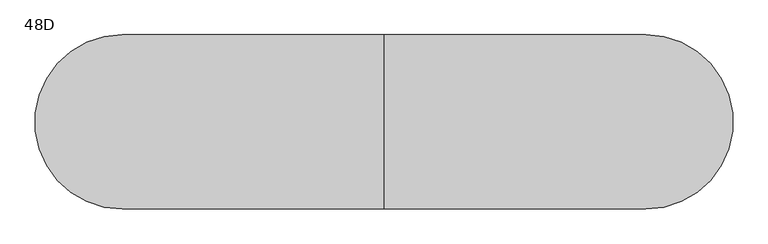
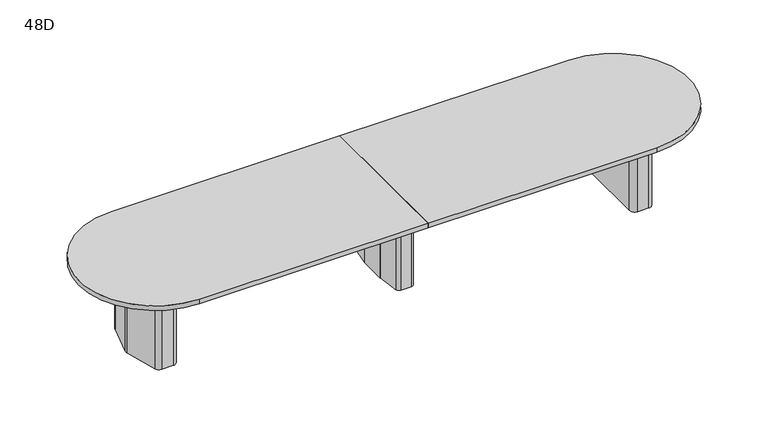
"""IFC4 building model written with IfcOpenShell, lengths in millimetres: furniture geometry, Coalesse_AM_Table_Conference_ETable2_Racetrack_16ft_ThreeBase : 48D."""

from ifc_helpers import new_model, si_unit, point, frame, frame_2d, origin, place, context, project, spatial, polyline, circle_curve, trimmed, segment, composite_curve, outline, extrude, source, transform, mapped, element, save
from ifc_brep_helpers import plane_surface, cylinder_surface, revolved_surface, advanced_brep


def furniture_48d_468f8837(model_context):
    return source(origin(), model_context, "Body", "SolidModel", [
        advanced_brep(
        [(35.71875, 206.375, 3.175), (10.31875, 231.775, 3.175), (-10.31875, 231.775, 3.175), (-35.71875, 206.375, 3.175), (-35.71875, -206.375, 3.175), (-10.31875, -231.775, 3.175), (10.31875, -231.775, 3.175), (35.71875, -206.375, 3.175), (-61.11875, 206.375, 0.0), (-10.31875, 257.175, 0.0), (10.31875, 257.175, 0.0), (61.11875, 206.375, 0.0), (61.11875, -206.375, 0.0), (10.31875, -257.175, 0.0), (-10.31875, -257.175, 0.0), (-61.11875, -206.375, 0.0), (-61.11875, -206.375, 3.175), (-61.11875, 206.375, 3.175), (-10.31875, -257.175, 3.175), (10.31875, -257.175, 3.175), (61.11875, -206.375, 3.175), (61.11875, 206.375, 3.175), (10.31875, 257.175, 3.175), (-10.31875, 257.175, 3.175), (-92.6215974, 106.2976848, 698.5), (-92.86875, 102.7629613, 698.5), (-92.86875, -102.7629613, 698.5), (-92.6215974, -106.2976848, 698.5), (-67.7988375, -282.9347235, 698.5), (-42.6459902, -304.8, 698.5), (42.6459902, -304.8, 698.5), (67.7988375, -282.9347235, 698.5), (92.6215974, -106.2976848, 698.5), (92.86875, -102.7629613, 698.5), (92.86875, 102.7629613, 698.5), (92.6215974, 106.2976848, 698.5), (67.7988375, 282.9347235, 698.5), (42.6459902, 304.8, 698.5), (-42.6459902, 304.8, 698.5), (-67.7988375, 282.9347235, 698.5), (10.31875, 231.775, 698.5), (35.71875, 206.375, 698.5), (35.71875, -206.375, 698.5), (10.31875, -231.775, 698.5), (-10.31875, -231.775, 698.5), (-35.71875, -206.375, 698.5), (-35.71875, 206.375, 698.5), (-10.31875, 231.775, 698.5), (-92.6215974, 106.2976848, 3.175), (-67.7988375, 282.9347235, 3.175), (-42.6459902, 304.8, 3.175), (42.6459902, 304.8, 3.175), (67.7988375, 282.9347235, 3.175), (92.6215974, 106.2976848, 3.175), (92.86875, 102.7629613, 3.175), (92.86875, -102.7629613, 3.175), (92.6215974, -106.2976848, 3.175), (67.7988375, -282.9347235, 3.175), (42.6459902, -304.8, 3.175), (-42.6459902, -304.8, 3.175), (-67.7988375, -282.9347235, 3.175), (-92.6215974, -106.2976848, 3.175), (-92.86875, -102.7629613, 3.175), (-92.86875, 102.7629613, 3.175)],
        [
            (0, 1, circle_curve(frame((10.31875, 206.375, 3.175), z_axis=(0.0, 0.0, 1.0), x_axis=(1.0, 0.0, 0.0)), 25.4)),
            (1, 2),
            (2, 3, circle_curve(frame((-10.31875, 206.375, 3.175), z_axis=(0.0, 0.0, 1.0), x_axis=(1.0, 0.0, 0.0)), 25.4)),
            (3, 4),
            (4, 5, circle_curve(frame((-10.31875, -206.375, 3.175), z_axis=(0.0, 0.0, 1.0), x_axis=(1.0, 0.0, 0.0)), 25.4)),
            (5, 6),
            (6, 7, circle_curve(frame((10.31875, -206.375, 3.175), z_axis=(0.0, 0.0, 1.0), x_axis=(1.0, 0.0, 0.0)), 25.4)),
            (7, 0),
            (8, 9, circle_curve(frame((-10.31875, 206.375, 0.0), z_axis=(0.0, 0.0, -1.0), x_axis=(1.0, 0.0, 0.0)), 50.8)),
            (9, 10),
            (10, 11, circle_curve(frame((10.31875, 206.375, 0.0), z_axis=(0.0, 0.0, -1.0), x_axis=(1.0, 0.0, 0.0)), 50.8)),
            (11, 12),
            (12, 13, circle_curve(frame((10.31875, -206.375, 0.0), z_axis=(0.0, 0.0, -1.0), x_axis=(1.0, 0.0, 0.0)), 50.8)),
            (13, 14),
            (14, 15, circle_curve(frame((-10.31875, -206.375, 0.0), z_axis=(0.0, 0.0, -1.0), x_axis=(1.0, 0.0, 0.0)), 50.8)),
            (15, 8),
            (15, 16),
            (16, 17),
            (17, 8),
            (14, 18),
            (18, 16, circle_curve(frame((-10.31875, -206.375, 3.175), z_axis=(0.0, 0.0, -1.0), x_axis=(1.0, 0.0, 0.0)), 50.8)),
            (13, 19),
            (19, 18),
            (12, 20),
            (20, 19, circle_curve(frame((10.31875, -206.375, 3.175), z_axis=(0.0, 0.0, -1.0), x_axis=(1.0, 0.0, 0.0)), 50.8)),
            (11, 21),
            (21, 20),
            (10, 22),
            (22, 21, circle_curve(frame((10.31875, 206.375, 3.175), z_axis=(0.0, 0.0, -1.0), x_axis=(1.0, 0.0, 0.0)), 50.8)),
            (9, 23),
            (23, 22),
            (17, 23, circle_curve(frame((-10.31875, 206.375, 3.175), z_axis=(0.0, 0.0, -1.0), x_axis=(1.0, 0.0, 0.0)), 50.8)),
            (24, 25, circle_curve(frame((-67.46875, 102.7629613, 698.5), z_axis=(0.0, 0.0, 1.0), x_axis=(1.0, 0.0, 0.0)), 25.4)),
            (25, 26),
            (26, 27, circle_curve(frame((-67.46875, -102.7629613, 698.5), z_axis=(0.0, 0.0, 1.0), x_axis=(1.0, 0.0, 0.0)), 25.4)),
            (27, 28),
            (28, 29, circle_curve(frame((-42.6459902, -279.4, 698.5), z_axis=(0.0, 0.0, 1.0), x_axis=(1.0, 0.0, 0.0)), 25.4)),
            (29, 30),
            (30, 31, circle_curve(frame((42.6459902, -279.4, 698.5), z_axis=(0.0, 0.0, 1.0), x_axis=(1.0, 0.0, 0.0)), 25.4)),
            (31, 32),
            (32, 33, circle_curve(frame((67.46875, -102.7629613, 698.5), z_axis=(0.0, 0.0, 1.0), x_axis=(1.0, 0.0, 0.0)), 25.4)),
            (33, 34),
            (34, 35, circle_curve(frame((67.46875, 102.7629613, 698.5), z_axis=(0.0, 0.0, 1.0), x_axis=(1.0, 0.0, 0.0)), 25.4)),
            (35, 36),
            (36, 37, circle_curve(frame((42.6459902, 279.4, 698.5), z_axis=(0.0, 0.0, 1.0), x_axis=(1.0, 0.0, 0.0)), 25.4)),
            (37, 38),
            (38, 39, circle_curve(frame((-42.6459902, 279.4, 698.5), z_axis=(0.0, 0.0, 1.0), x_axis=(1.0, 0.0, 0.0)), 25.4)),
            (39, 24),
            (40, 41, circle_curve(frame((10.31875, 206.375, 698.5), z_axis=(0.0, 0.0, -1.0), x_axis=(1.0, 0.0, 0.0)), 25.4)),
            (41, 42),
            (42, 43, circle_curve(frame((10.31875, -206.375, 698.5), z_axis=(0.0, 0.0, -1.0), x_axis=(1.0, 0.0, 0.0)), 25.4)),
            (43, 44),
            (44, 45, circle_curve(frame((-10.31875, -206.375, 698.5), z_axis=(0.0, 0.0, -1.0), x_axis=(1.0, 0.0, 0.0)), 25.4)),
            (45, 46),
            (46, 47, circle_curve(frame((-10.31875, 206.375, 698.5), z_axis=(0.0, 0.0, -1.0), x_axis=(1.0, 0.0, 0.0)), 25.4)),
            (47, 40),
            (48, 49),
            (49, 50, circle_curve(frame((-42.6459902, 279.4, 3.175), z_axis=(0.0, 0.0, -1.0), x_axis=(1.0, 0.0, 0.0)), 25.4)),
            (50, 51),
            (51, 52, circle_curve(frame((42.6459902, 279.4, 3.175), z_axis=(0.0, 0.0, -1.0), x_axis=(1.0, 0.0, 0.0)), 25.4)),
            (52, 53),
            (53, 54, circle_curve(frame((67.46875, 102.7629613, 3.175), z_axis=(0.0, 0.0, -1.0), x_axis=(1.0, 0.0, 0.0)), 25.4)),
            (54, 55),
            (55, 56, circle_curve(frame((67.46875, -102.7629613, 3.175), z_axis=(0.0, 0.0, -1.0), x_axis=(1.0, 0.0, 0.0)), 25.4)),
            (56, 57),
            (57, 58, circle_curve(frame((42.6459902, -279.4, 3.175), z_axis=(0.0, 0.0, -1.0), x_axis=(1.0, 0.0, 0.0)), 25.4)),
            (58, 59),
            (59, 60, circle_curve(frame((-42.6459902, -279.4, 3.175), z_axis=(0.0, 0.0, -1.0), x_axis=(1.0, 0.0, 0.0)), 25.4)),
            (60, 61),
            (61, 62, circle_curve(frame((-67.46875, -102.7629613, 3.175), z_axis=(0.0, 0.0, -1.0), x_axis=(1.0, 0.0, 0.0)), 25.4)),
            (62, 63),
            (63, 48, circle_curve(frame((-67.46875, 102.7629613, 3.175), z_axis=(0.0, 0.0, -1.0), x_axis=(1.0, 0.0, 0.0)), 25.4)),
            (24, 48),
            (63, 25),
            (62, 26),
            (61, 27),
            (60, 28),
            (59, 29),
            (58, 30),
            (57, 31),
            (56, 32),
            (55, 33),
            (54, 34),
            (53, 35),
            (52, 36),
            (51, 37),
            (50, 38),
            (49, 39),
            (40, 1),
            (0, 41),
            (7, 42),
            (6, 43),
            (5, 44),
            (4, 45),
            (3, 46),
            (2, 47),
        ],
        [
            plane_surface(frame((-61.11875, -206.375, 3.175), z_axis=(0.0, 0.0, 1.0), x_axis=(0.0, -1.0, 0.0))),
            plane_surface(frame((-61.11875, -206.375, 0.0), z_axis=(0.0, 0.0, -1.0), x_axis=(0.0, 1.0, 0.0))),
            plane_surface(frame((-61.11875, 206.375, 3.175), z_axis=(-1.0, 0.0, 0.0), x_axis=(0.0, 0.0, -1.0))),
            cylinder_surface(frame((-10.31875, -206.375, 0.0), z_axis=(0.0, 0.0, 1.0), x_axis=(1.0, 0.0, 0.0)), 50.8),
            plane_surface(frame((-10.31875, -257.175, 3.175), z_axis=(0.0, -1.0, 0.0), x_axis=(0.0, 0.0, -1.0))),
            cylinder_surface(frame((10.31875, -206.375, 0.0), z_axis=(0.0, 0.0, 1.0), x_axis=(1.0, 0.0, 0.0)), 50.8),
            plane_surface(frame((61.11875, -206.375, 3.175), z_axis=(1.0, 0.0, 0.0), x_axis=(0.0, 0.0, -1.0))),
            cylinder_surface(frame((10.31875, 206.375, 0.0), z_axis=(0.0, 0.0, 1.0), x_axis=(1.0, 0.0, 0.0)), 50.8),
            plane_surface(frame((10.31875, 257.175, 3.175), z_axis=(0.0, 1.0, 0.0), x_axis=(0.0, 0.0, -1.0))),
            cylinder_surface(frame((-10.31875, 206.375, 0.0), z_axis=(0.0, 0.0, 1.0), x_axis=(1.0, 0.0, 0.0)), 50.8),
            plane_surface(frame((-42.06875, 102.7629613, 698.5), z_axis=(0.0, 0.0, 1.0), x_axis=(0.0, 1.0, 0.0))),
            plane_surface(frame((-42.06875, 102.7629613, 3.175), z_axis=(0.0, 0.0, -1.0), x_axis=(0.0, -1.0, 0.0))),
            cylinder_surface(frame((-67.46875, 102.7629613, 3.175), z_axis=(0.0, 0.0, 1.0), x_axis=(1.0, 0.0, 0.0)), 25.4),
            plane_surface(frame((-92.86875, 102.7629613, 698.5), z_axis=(-1.0, 0.0, 0.0), x_axis=(0.0, 0.0, -1.0))),
            cylinder_surface(frame((-67.46875, -102.7629613, 3.175), z_axis=(0.0, 0.0, 1.0), x_axis=(1.0, 0.0, 0.0)), 25.4),
            plane_surface(frame((-92.6215974, -106.2976848, 698.5), z_axis=(-0.9902695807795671, -0.13916234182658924, 0.0), x_axis=(0.0, 0.0, -1.0))),
            cylinder_surface(frame((-42.6459902, -279.4, 3.175), z_axis=(0.0, 0.0, 1.0), x_axis=(1.0, 0.0, 0.0)), 25.4),
            plane_surface(frame((-42.6459902, -304.8, 698.5), z_axis=(0.0, -1.0, 0.0), x_axis=(0.0, 0.0, -1.0))),
            cylinder_surface(frame((42.6459902, -279.4, 3.175), z_axis=(0.0, 0.0, 1.0), x_axis=(1.0, 0.0, 0.0)), 25.4),
            plane_surface(frame((67.7988375, -282.9347235, 698.5), z_axis=(0.9902695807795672, -0.13916234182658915, 0.0), x_axis=(0.0, 0.0, -1.0))),
            cylinder_surface(frame((67.46875, -102.7629613, 3.175), z_axis=(0.0, 0.0, 1.0), x_axis=(1.0, 0.0, 0.0)), 25.4),
            plane_surface(frame((92.86875, -102.7629613, 698.5), z_axis=(1.0, 0.0, 0.0), x_axis=(0.0, 0.0, -1.0))),
            cylinder_surface(frame((67.46875, 102.7629613, 3.175), z_axis=(0.0, 0.0, 1.0), x_axis=(1.0, 0.0, 0.0)), 25.4),
            plane_surface(frame((92.6215974, 106.2976848, 698.5), z_axis=(0.9902695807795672, 0.1391623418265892, 0.0), x_axis=(0.0, 0.0, -1.0))),
            cylinder_surface(frame((42.6459902, 279.4, 3.175), z_axis=(0.0, 0.0, 1.0), x_axis=(1.0, 0.0, 0.0)), 25.4),
            plane_surface(frame((42.6459902, 304.8, 698.5), z_axis=(0.0, 1.0, 0.0), x_axis=(0.0, 0.0, -1.0))),
            cylinder_surface(frame((-42.6459902, 279.4, 3.175), z_axis=(0.0, 0.0, 1.0), x_axis=(1.0, 0.0, 0.0)), 25.4),
            plane_surface(frame((-67.7988375, 282.9347235, 698.5), z_axis=(-0.9902695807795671, 0.13916234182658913, 0.0), x_axis=(0.0, 0.0, -1.0))),
            revolved_surface(polyline([(35.71875, 206.375, 3.175), (35.71875, 206.375, 698.5)]), (10.31875, 206.375, 0.0), (0.0, 0.0, -1.0)),
            plane_surface(frame((35.71875, 206.375, 698.5), z_axis=(-1.0, 0.0, 0.0), x_axis=(0.0, 0.0, -1.0))),
            revolved_surface(polyline([(35.71875, -206.375, 3.175), (35.71875, -206.375, 698.5)]), (10.31875, -206.375, 0.0), (0.0, 0.0, -1.0)),
            plane_surface(frame((10.31875, -231.775, 698.5), z_axis=(0.0, 1.0, 0.0), x_axis=(0.0, 0.0, -1.0))),
            revolved_surface(polyline([(15.081249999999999, -206.375, 3.175), (15.081249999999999, -206.375, 698.5)]), (-10.31875, -206.375, 0.0), (0.0, 0.0, -1.0)),
            plane_surface(frame((-35.71875, -206.375, 698.5), z_axis=(1.0, 0.0, 0.0), x_axis=(0.0, 0.0, -1.0))),
            revolved_surface(polyline([(15.081249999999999, 206.375, 3.175), (15.081249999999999, 206.375, 698.5)]), (-10.31875, 206.375, 0.0), (0.0, 0.0, -1.0)),
            plane_surface(frame((-10.31875, 231.775, 698.5), z_axis=(0.0, -1.0, 0.0), x_axis=(0.0, 0.0, -1.0))),
        ],
        [
            (0, [[1, 2, 3, 4, 5, 6, 7, 8]]),
            (1, [[9, 10, 11, 12, 13, 14, 15, 16]]),
            (2, [[-16, 17, 18, 19]]),
            (3, [[-15, 20, 21, -17]]),
            (4, [[-14, 22, 23, -20]]),
            (5, [[-13, 24, 25, -22]]),
            (6, [[-12, 26, 27, -24]]),
            (7, [[-11, 28, 29, -26]]),
            (8, [[-10, 30, 31, -28]]),
            (9, [[-9, -19, 32, -30]]),
            (10, [[33, 34, 35, 36, 37, 38, 39, 40, 41, 42, 43, 44, 45, 46, 47, 48], [49, 50, 51, 52, 53, 54, 55, 56]]),
            (11, [[57, 58, 59, 60, 61, 62, 63, 64, 65, 66, 67, 68, 69, 70, 71, 72], [-18, -21, -23, -25, -27, -29, -31, -32]]),
            (12, [[-33, 73, -72, 74]]),
            (13, [[-34, -74, -71, 75]]),
            (14, [[-35, -75, -70, 76]]),
            (15, [[-36, -76, -69, 77]]),
            (16, [[-37, -77, -68, 78]]),
            (17, [[-38, -78, -67, 79]]),
            (18, [[-39, -79, -66, 80]]),
            (19, [[-40, -80, -65, 81]]),
            (20, [[-41, -81, -64, 82]]),
            (21, [[-42, -82, -63, 83]]),
            (22, [[-43, -83, -62, 84]]),
            (23, [[-44, -84, -61, 85]]),
            (24, [[-45, -85, -60, 86]]),
            (25, [[-46, -86, -59, 87]]),
            (26, [[-47, -87, -58, 88]]),
            (27, [[-48, -88, -57, -73]]),
            (28, [[-49, 89, -1, 90]]),
            (29, [[-50, -90, -8, 91]]),
            (30, [[-51, -91, -7, 92]]),
            (31, [[-52, -92, -6, 93]]),
            (32, [[-53, -93, -5, 94]]),
            (33, [[-54, -94, -4, 95]]),
            (34, [[-55, -95, -3, 96]]),
            (35, [[-56, -96, -2, -89]]),
        ],
    ),
        advanced_brep(
        [(1979.824548, 274.2093613, 698.5), (1939.9579246, 304.8, 698.5), (1851.025, 304.8, 698.5), (1809.75, 263.525, 698.5), (1809.75, -263.525, 698.5), (1851.025, -304.8, 698.5), (1939.9579246, -304.8, 698.5), (1979.824548, -274.2093613, 698.5), (2050.4503901, -10.6333708, 698.5), (2050.4503901, 10.6333708, 698.5), (1847.85, -206.375, 698.5), (1847.85, 206.375, 698.5), (1873.25, 231.775, 698.5), (1932.2608422, 231.775, 698.5), (1956.795338, 212.9490792, 698.5), (1995.4875, 68.54974, 698.5), (1995.4875, -68.54974, 698.5), (1956.795338, -212.9490792, 698.5), (1932.2608422, -231.775, 698.5), (1873.25, -231.775, 698.5), (1979.824548, 274.2093613, 3.175), (2050.4503901, 10.6333708, 3.175), (2050.4503901, -10.6333708, 3.175), (1979.824548, -274.2093613, 3.175), (1939.9579246, -304.8, 3.175), (1851.025, -304.8, 3.175), (1809.75, -263.525, 3.175), (1809.75, 263.525, 3.175), (1851.025, 304.8, 3.175), (1939.9579246, 304.8, 3.175), (1969.0625859, 216.2361187, 3.175), (1932.2608422, 244.475, 3.175), (1873.25, 244.475, 3.175), (1835.15, 206.375, 3.175), (1835.15, -206.375, 3.175), (1873.25, -244.475, 3.175), (1932.2608422, -244.475, 3.175), (1969.0625859, -216.2361187, 3.175), (2008.1875, -70.2217466, 3.175), (2008.1875, 70.2217466, 3.175), (1873.25, -231.775, 3.175), (1847.85, -206.375, 3.175), (1932.2608422, -231.775, 3.175), (1956.795338, -212.9490792, 3.175), (1995.4875, -68.54974, 3.175), (1995.4875, 68.54974, 3.175), (1956.795338, 212.9490792, 3.175), (1932.2608422, 231.775, 3.175), (1873.25, 231.775, 3.175), (1847.85, 206.375, 3.175), (1969.0625859, 216.2361187, 0.0), (2008.1875, 70.2217466, 0.0), (2008.1875, -70.2217466, 0.0), (1969.0625859, -216.2361187, 0.0), (1932.2608422, -244.475, 0.0), (1873.25, -244.475, 0.0), (1835.15, -206.375, 0.0), (1835.15, 206.375, 0.0), (1873.25, 244.475, 0.0), (1932.2608422, 244.475, 0.0)],
        [
            (0, 1, circle_curve(frame((1939.9579246, 263.5270004, 698.5), z_axis=(0.0, 0.0, 1.0), x_axis=(-1.0, 0.0, 0.0)), 41.2729996)),
            (1, 2),
            (2, 3, circle_curve(frame((1851.025, 263.525, 698.5), z_axis=(0.0, 0.0, 1.0), x_axis=(-1.0, 0.0, 0.0)), 41.275)),
            (3, 4),
            (4, 5, circle_curve(frame((1851.025, -263.525, 698.5), z_axis=(0.0, 0.0, 1.0), x_axis=(-1.0, 0.0, 0.0)), 41.275)),
            (5, 6),
            (6, 7, circle_curve(frame((1939.9579246, -263.5270004, 698.5), z_axis=(0.0, 0.0, 1.0), x_axis=(-1.0, 0.0, 0.0)), 41.2729996)),
            (7, 8),
            (8, 9, circle_curve(frame((2010.7665979, 0.0, 698.5), z_axis=(0.0, 0.0, 1.0), x_axis=(-1.0, 0.0, 0.0)), 41.0837187)),
            (9, 0),
            (10, 11),
            (11, 12, circle_curve(frame((1873.25, 206.375, 698.5), z_axis=(0.0, 0.0, -1.0), x_axis=(-1.0, 0.0, 0.0)), 25.4)),
            (12, 13),
            (13, 14, circle_curve(frame((1932.2608422, 206.375, 698.5), z_axis=(0.0, 0.0, -1.0), x_axis=(-1.0, 0.0, 0.0)), 25.4)),
            (14, 15),
            (15, 16),
            (16, 17),
            (17, 18, circle_curve(frame((1932.2608422, -206.375, 698.5), z_axis=(0.0, 0.0, -1.0), x_axis=(-1.0, 0.0, 0.0)), 25.4)),
            (18, 19),
            (19, 10, circle_curve(frame((1873.25, -206.375, 698.5), z_axis=(0.0, 0.0, -1.0), x_axis=(-1.0, 0.0, 0.0)), 25.4)),
            (20, 21),
            (21, 22, circle_curve(frame((2010.7665979, 0.0, 3.175), z_axis=(0.0, 0.0, -1.0), x_axis=(-1.0, 0.0, 0.0)), 41.0837187)),
            (22, 23),
            (23, 24, circle_curve(frame((1939.9579246, -263.5270004, 3.175), z_axis=(0.0, 0.0, -1.0), x_axis=(-1.0, 0.0, 0.0)), 41.2729996)),
            (24, 25),
            (25, 26, circle_curve(frame((1851.025, -263.525, 3.175), z_axis=(0.0, 0.0, -1.0), x_axis=(-1.0, 0.0, 0.0)), 41.275)),
            (26, 27),
            (27, 28, circle_curve(frame((1851.025, 263.525, 3.175), z_axis=(0.0, 0.0, -1.0), x_axis=(-1.0, 0.0, 0.0)), 41.275)),
            (28, 29),
            (29, 20, circle_curve(frame((1939.9579246, 263.5270004, 3.175), z_axis=(0.0, 0.0, -1.0), x_axis=(-1.0, 0.0, 0.0)), 41.2729996)),
            (30, 31, circle_curve(frame((1932.2608422, 206.375, 3.175), z_axis=(0.0, 0.0, 1.0), x_axis=(-1.0, 0.0, 0.0)), 38.1)),
            (31, 32),
            (32, 33, circle_curve(frame((1873.25, 206.375, 3.175), z_axis=(0.0, 0.0, 1.0), x_axis=(-1.0, 0.0, 0.0)), 38.1)),
            (33, 34),
            (34, 35, circle_curve(frame((1873.25, -206.375, 3.175), z_axis=(0.0, 0.0, 1.0), x_axis=(-1.0, 0.0, 0.0)), 38.1)),
            (35, 36),
            (36, 37, circle_curve(frame((1932.2608422, -206.375, 3.175), z_axis=(0.0, 0.0, 1.0), x_axis=(-1.0, 0.0, 0.0)), 38.1)),
            (37, 38),
            (38, 39),
            (39, 30),
            (9, 21),
            (20, 0),
            (8, 22),
            (7, 23),
            (6, 24),
            (5, 25),
            (4, 26),
            (3, 27),
            (2, 28),
            (1, 29),
            (19, 40),
            (40, 41, circle_curve(frame((1873.25, -206.375, 3.175), z_axis=(0.0, 0.0, -1.0), x_axis=(-1.0, 0.0, 0.0)), 25.4)),
            (41, 10),
            (18, 42),
            (42, 40),
            (17, 43),
            (43, 42, circle_curve(frame((1932.2608422, -206.375, 3.175), z_axis=(0.0, 0.0, -1.0), x_axis=(-1.0, 0.0, 0.0)), 25.4)),
            (16, 44),
            (44, 43),
            (15, 45),
            (45, 44),
            (14, 46),
            (46, 45),
            (13, 47),
            (47, 46, circle_curve(frame((1932.2608422, 206.375, 3.175), z_axis=(0.0, 0.0, -1.0), x_axis=(-1.0, 0.0, 0.0)), 25.4)),
            (12, 48),
            (48, 47),
            (11, 49),
            (49, 48, circle_curve(frame((1873.25, 206.375, 3.175), z_axis=(0.0, 0.0, -1.0), x_axis=(-1.0, 0.0, 0.0)), 25.4)),
            (41, 49),
            (50, 51),
            (51, 52),
            (52, 53),
            (53, 54, circle_curve(frame((1932.2608422, -206.375, 0.0), z_axis=(0.0, 0.0, -1.0), x_axis=(-1.0, 0.0, 0.0)), 38.1)),
            (54, 55),
            (55, 56, circle_curve(frame((1873.25, -206.375, 0.0), z_axis=(0.0, 0.0, -1.0), x_axis=(-1.0, 0.0, 0.0)), 38.1)),
            (56, 57),
            (57, 58, circle_curve(frame((1873.25, 206.375, 0.0), z_axis=(0.0, 0.0, -1.0), x_axis=(-1.0, 0.0, 0.0)), 38.1)),
            (58, 59),
            (59, 50, circle_curve(frame((1932.2608422, 206.375, 0.0), z_axis=(0.0, 0.0, -1.0), x_axis=(-1.0, 0.0, 0.0)), 38.1)),
            (50, 30),
            (39, 51),
            (38, 52),
            (37, 53),
            (36, 54),
            (35, 55),
            (34, 56),
            (33, 57),
            (32, 58),
            (31, 59),
        ],
        [
            plane_surface(frame((2050.4374275, 10.6817473, 698.5), z_axis=(0.0, 0.0, 1.0000000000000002), x_axis=(0.25882201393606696, -0.9659250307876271, 0.0))),
            plane_surface(frame((2050.4374275, 10.6817473, 3.175), z_axis=(0.0, 0.0, -1.0000000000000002), x_axis=(-0.25882201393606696, 0.9659250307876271, 0.0))),
            plane_surface(frame((1979.824548, 274.2093613, 698.5), z_axis=(0.9659250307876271, 0.25882201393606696, 0.0), x_axis=(0.0, 0.0, -1.0))),
            cylinder_surface(frame((2010.7665979, 0.0, 3.175), z_axis=(0.0, 0.0, 1.0), x_axis=(-1.0, 0.0, 0.0)), 41.0837187),
            plane_surface(frame((2050.4503901, -10.6333708, 698.5), z_axis=(0.9659250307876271, -0.2588220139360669, 0.0), x_axis=(0.0, 0.0, -1.0))),
            cylinder_surface(frame((1939.9579246, -263.5270004, 3.175), z_axis=(0.0, 0.0, 1.0), x_axis=(-1.0, 0.0, 0.0)), 41.2729996),
            plane_surface(frame((1939.9579246, -304.8, 698.5), z_axis=(0.0, -1.0, 0.0), x_axis=(0.0, 0.0, -1.0))),
            cylinder_surface(frame((1851.025, -263.525, 3.175), z_axis=(0.0, 0.0, 1.0), x_axis=(-1.0, 0.0, 0.0)), 41.275),
            plane_surface(frame((1809.75, -263.525, 698.5), z_axis=(-1.0, 0.0, 0.0), x_axis=(0.0, 0.0, -1.0))),
            cylinder_surface(frame((1851.025, 263.525, 3.175), z_axis=(0.0, 0.0, 1.0), x_axis=(-1.0, 0.0, 0.0)), 41.275),
            plane_surface(frame((1851.025, 304.8, 698.5), z_axis=(0.0, 1.0, 0.0), x_axis=(0.0, 0.0, -1.0))),
            cylinder_surface(frame((1939.9579246, 263.5270004, 3.175), z_axis=(0.0, 0.0, 1.0), x_axis=(-1.0, 0.0, 0.0)), 41.2729996),
            revolved_surface(polyline([(1847.85, -206.375, 3.175), (1847.85, -206.375, 698.5)]), (1873.25, -206.375, 0.0), (0.0, 0.0, -1.0)),
            plane_surface(frame((1873.25, -231.775, 698.5), z_axis=(0.0, 1.0, 0.0), x_axis=(0.0, 0.0, -1.0))),
            revolved_surface(polyline([(1906.8608422, -206.375, 3.175), (1906.8608422, -206.375, 698.5)]), (1932.2608422, -206.375, 0.0), (0.0, 0.0, -1.0)),
            plane_surface(frame((1956.795338, -212.9490792, 698.5), z_axis=(-0.9659250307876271, 0.2588220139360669, 0.0), x_axis=(0.0, 0.0, -1.0))),
            plane_surface(frame((1995.4875, -68.54974, 698.5), z_axis=(-1.0, 0.0, 0.0), x_axis=(0.0, 0.0, -1.0))),
            plane_surface(frame((1995.4875, 68.54974, 698.5), z_axis=(-0.9659250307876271, -0.25882201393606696, 0.0), x_axis=(0.0, 0.0, -1.0))),
            revolved_surface(polyline([(1906.8608422, 206.375, 3.175), (1906.8608422, 206.375, 698.5)]), (1932.2608422, 206.375, 0.0), (0.0, 0.0, -1.0)),
            plane_surface(frame((1932.2608422, 231.775, 698.5), z_axis=(0.0, -1.0, 0.0), x_axis=(0.0, 0.0, -1.0))),
            revolved_surface(polyline([(1847.85, 206.375, 3.175), (1847.85, 206.375, 698.5)]), (1873.25, 206.375, 0.0), (0.0, 0.0, -1.0)),
            plane_surface(frame((1847.85, 206.375, 698.5), z_axis=(1.0, 0.0, 0.0), x_axis=(0.0, 0.0, -1.0))),
            plane_surface(frame((2007.7547479, 71.8367796, 3.175), z_axis=(0.0, 0.0, 1.0), x_axis=(0.25882201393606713, -0.965925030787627, 0.0))),
            plane_surface(frame((2007.7547479, 71.8367796, 0.0), z_axis=(0.0, 0.0, -1.0), x_axis=(-0.25882201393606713, 0.965925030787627, 0.0))),
            plane_surface(frame((1969.0625859, 216.2361187, 3.175), z_axis=(0.965925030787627, 0.25882201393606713, 0.0), x_axis=(0.0, 0.0, -1.0))),
            plane_surface(frame((2008.1875, 70.2217466, 3.175), z_axis=(1.0, 0.0, 0.0), x_axis=(0.0, 0.0, -1.0))),
            plane_surface(frame((2008.1875, -70.2217466, 3.175), z_axis=(0.9659250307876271, -0.2588220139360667, 0.0), x_axis=(0.0, 0.0, -1.0))),
            cylinder_surface(frame((1932.2608422, -206.375, 0.0), z_axis=(0.0, 0.0, 1.0), x_axis=(-1.0, 0.0, 0.0)), 38.1),
            plane_surface(frame((1932.2608422, -244.475, 3.175), z_axis=(0.0, -1.0, 0.0), x_axis=(0.0, 0.0, -1.0))),
            cylinder_surface(frame((1873.25, -206.375, 0.0), z_axis=(0.0, 0.0, 1.0), x_axis=(-1.0, 0.0, 0.0)), 38.1),
            plane_surface(frame((1835.15, -206.375, 3.175), z_axis=(-1.0, 0.0, 0.0), x_axis=(0.0, 0.0, -1.0))),
            cylinder_surface(frame((1873.25, 206.375, 0.0), z_axis=(0.0, 0.0, 1.0), x_axis=(-1.0, 0.0, 0.0)), 38.1),
            plane_surface(frame((1873.25, 244.475, 3.175), z_axis=(0.0, 1.0, 0.0), x_axis=(0.0, 0.0, -1.0))),
            cylinder_surface(frame((1932.2608422, 206.375, 0.0), z_axis=(0.0, 0.0, 1.0), x_axis=(-1.0, 0.0, 0.0)), 38.1),
        ],
        [
            (0, [[1, 2, 3, 4, 5, 6, 7, 8, 9, 10], [11, 12, 13, 14, 15, 16, 17, 18, 19, 20]]),
            (1, [[21, 22, 23, 24, 25, 26, 27, 28, 29, 30], [31, 32, 33, 34, 35, 36, 37, 38, 39, 40]]),
            (2, [[41, -21, 42, -10]]),
            (3, [[43, -22, -41, -9]]),
            (4, [[44, -23, -43, -8]]),
            (5, [[45, -24, -44, -7]]),
            (6, [[46, -25, -45, -6]]),
            (7, [[47, -26, -46, -5]]),
            (8, [[48, -27, -47, -4]]),
            (9, [[49, -28, -48, -3]]),
            (10, [[50, -29, -49, -2]]),
            (11, [[-42, -30, -50, -1]]),
            (12, [[51, 52, 53, -20]]),
            (13, [[54, 55, -51, -19]]),
            (14, [[56, 57, -54, -18]]),
            (15, [[58, 59, -56, -17]]),
            (16, [[60, 61, -58, -16]]),
            (17, [[62, 63, -60, -15]]),
            (18, [[64, 65, -62, -14]]),
            (19, [[66, 67, -64, -13]]),
            (20, [[68, 69, -66, -12]]),
            (21, [[-53, 70, -68, -11]]),
            (22, [[-55, -57, -59, -61, -63, -65, -67, -69, -70, -52]]),
            (23, [[71, 72, 73, 74, 75, 76, 77, 78, 79, 80]]),
            (24, [[81, -40, 82, -71]]),
            (25, [[-82, -39, 83, -72]]),
            (26, [[-83, -38, 84, -73]]),
            (27, [[-84, -37, 85, -74]]),
            (28, [[-85, -36, 86, -75]]),
            (29, [[-86, -35, 87, -76]]),
            (30, [[-87, -34, 88, -77]]),
            (31, [[-88, -33, 89, -78]]),
            (32, [[-89, -32, 90, -79]]),
            (33, [[-90, -31, -81, -80]]),
        ],
    ),
        advanced_brep(
        [(-1990.937048, 274.2093613, 698.5), (-2061.5628901, 10.6333708, 698.5), (-2061.5628901, -10.6333708, 698.5), (-1990.937048, -274.2093613, 698.5), (-1951.0704246, -304.8, 698.5), (-1862.1375, -304.8, 698.5), (-1820.8625, -263.525, 698.5), (-1820.8625, 263.525, 698.5), (-1862.1375, 304.8, 698.5), (-1951.0704246, 304.8, 698.5), (-1858.9625, -206.375, 698.5), (-1884.3625, -231.775, 698.5), (-1943.3733422, -231.775, 698.5), (-1967.907838, -212.9490792, 698.5), (-2006.6, -68.54974, 698.5), (-2006.6, 68.54974, 698.5), (-1967.907838, 212.9490792, 698.5), (-1943.3733422, 231.775, 698.5), (-1884.3625, 231.775, 698.5), (-1858.9625, 206.375, 698.5), (-1990.937048, 274.2093613, 3.175), (-1951.0704246, 304.8, 3.175), (-1862.1375, 304.8, 3.175), (-1820.8625, 263.525, 3.175), (-1820.8625, -263.525, 3.175), (-1862.1375, -304.8, 3.175), (-1951.0704246, -304.8, 3.175), (-1990.937048, -274.2093613, 3.175), (-2061.5628901, -10.6333708, 3.175), (-2061.5628901, 10.6333708, 3.175), (-1980.1750859, 216.2361187, 3.175), (-2019.3, 70.2217466, 3.175), (-2019.3, -70.2217466, 3.175), (-1980.1750859, -216.2361187, 3.175), (-1943.3733422, -244.475, 3.175), (-1884.3625, -244.475, 3.175), (-1846.2625, -206.375, 3.175), (-1846.2625, 206.375, 3.175), (-1884.3625, 244.475, 3.175), (-1943.3733422, 244.475, 3.175), (-1858.9625, -206.375, 3.175), (-1884.3625, -231.775, 3.175), (-1943.3733422, -231.775, 3.175), (-1967.907838, -212.9490792, 3.175), (-2006.6, -68.54974, 3.175), (-2006.6, 68.54974, 3.175), (-1967.907838, 212.9490792, 3.175), (-1943.3733422, 231.775, 3.175), (-1884.3625, 231.775, 3.175), (-1858.9625, 206.375, 3.175), (-1980.1750859, 216.2361187, 0.0), (-1943.3733422, 244.475, 0.0), (-1884.3625, 244.475, 0.0), (-1846.2625, 206.375, 0.0), (-1846.2625, -206.375, 0.0), (-1884.3625, -244.475, 0.0), (-1943.3733422, -244.475, 0.0), (-1980.1750859, -216.2361187, 0.0), (-2019.3, -70.2217466, 0.0), (-2019.3, 70.2217466, 0.0)],
        [
            (0, 1),
            (1, 2, circle_curve(frame((-2021.8790979, 0.0, 698.5), z_axis=(0.0, 0.0, 1.0), x_axis=(1.0, 0.0, 0.0)), 41.0837187)),
            (2, 3),
            (3, 4, circle_curve(frame((-1951.0704246, -263.5270004, 698.5), z_axis=(0.0, 0.0, 1.0), x_axis=(1.0, 0.0, 0.0)), 41.2729996)),
            (4, 5),
            (5, 6, circle_curve(frame((-1862.1375, -263.525, 698.5), z_axis=(0.0, 0.0, 1.0), x_axis=(1.0, 0.0, 0.0)), 41.275)),
            (6, 7),
            (7, 8, circle_curve(frame((-1862.1375, 263.525, 698.5), z_axis=(0.0, 0.0, 1.0), x_axis=(1.0, 0.0, 0.0)), 41.275)),
            (8, 9),
            (9, 0, circle_curve(frame((-1951.0704246, 263.5270004, 698.5), z_axis=(0.0, 0.0, 1.0), x_axis=(1.0, 0.0, 0.0)), 41.2729996)),
            (10, 11, circle_curve(frame((-1884.3625, -206.375, 698.5), z_axis=(0.0, 0.0, -1.0), x_axis=(1.0, 0.0, 0.0)), 25.4)),
            (11, 12),
            (12, 13, circle_curve(frame((-1943.3733422, -206.375, 698.5), z_axis=(0.0, 0.0, -1.0), x_axis=(1.0, 0.0, 0.0)), 25.4)),
            (13, 14),
            (14, 15),
            (15, 16),
            (16, 17, circle_curve(frame((-1943.3733422, 206.375, 698.5), z_axis=(0.0, 0.0, -1.0), x_axis=(1.0, 0.0, 0.0)), 25.4)),
            (17, 18),
            (18, 19, circle_curve(frame((-1884.3625, 206.375, 698.5), z_axis=(0.0, 0.0, -1.0), x_axis=(1.0, 0.0, 0.0)), 25.4)),
            (19, 10),
            (20, 21, circle_curve(frame((-1951.0704246, 263.5270004, 3.175), z_axis=(0.0, 0.0, -1.0), x_axis=(1.0, 0.0, 0.0)), 41.2729996)),
            (21, 22),
            (22, 23, circle_curve(frame((-1862.1375, 263.525, 3.175), z_axis=(0.0, 0.0, -1.0), x_axis=(1.0, 0.0, 0.0)), 41.275)),
            (23, 24),
            (24, 25, circle_curve(frame((-1862.1375, -263.525, 3.175), z_axis=(0.0, 0.0, -1.0), x_axis=(1.0, 0.0, 0.0)), 41.275)),
            (25, 26),
            (26, 27, circle_curve(frame((-1951.0704246, -263.5270004, 3.175), z_axis=(0.0, 0.0, -1.0), x_axis=(1.0, 0.0, 0.0)), 41.2729996)),
            (27, 28),
            (28, 29, circle_curve(frame((-2021.8790979, 0.0, 3.175), z_axis=(0.0, 0.0, -1.0), x_axis=(1.0, 0.0, 0.0)), 41.0837187)),
            (29, 20),
            (30, 31),
            (31, 32),
            (32, 33),
            (33, 34, circle_curve(frame((-1943.3733422, -206.375, 3.175), z_axis=(0.0, 0.0, 1.0), x_axis=(1.0, 0.0, 0.0)), 38.1)),
            (34, 35),
            (35, 36, circle_curve(frame((-1884.3625, -206.375, 3.175), z_axis=(0.0, 0.0, 1.0), x_axis=(1.0, 0.0, 0.0)), 38.1)),
            (36, 37),
            (37, 38, circle_curve(frame((-1884.3625, 206.375, 3.175), z_axis=(0.0, 0.0, 1.0), x_axis=(1.0, 0.0, 0.0)), 38.1)),
            (38, 39),
            (39, 30, circle_curve(frame((-1943.3733422, 206.375, 3.175), z_axis=(0.0, 0.0, 1.0), x_axis=(1.0, 0.0, 0.0)), 38.1)),
            (0, 20),
            (29, 1),
            (28, 2),
            (27, 3),
            (26, 4),
            (25, 5),
            (24, 6),
            (23, 7),
            (22, 8),
            (21, 9),
            (10, 40),
            (40, 41, circle_curve(frame((-1884.3625, -206.375, 3.175), z_axis=(0.0, 0.0, -1.0), x_axis=(1.0, 0.0, 0.0)), 25.4)),
            (41, 11),
            (41, 42),
            (42, 12),
            (42, 43, circle_curve(frame((-1943.3733422, -206.375, 3.175), z_axis=(0.0, 0.0, -1.0), x_axis=(1.0, 0.0, 0.0)), 25.4)),
            (43, 13),
            (43, 44),
            (44, 14),
            (44, 45),
            (45, 15),
            (45, 46),
            (46, 16),
            (46, 47, circle_curve(frame((-1943.3733422, 206.375, 3.175), z_axis=(0.0, 0.0, -1.0), x_axis=(1.0, 0.0, 0.0)), 25.4)),
            (47, 17),
            (47, 48),
            (48, 18),
            (48, 49, circle_curve(frame((-1884.3625, 206.375, 3.175), z_axis=(0.0, 0.0, -1.0), x_axis=(1.0, 0.0, 0.0)), 25.4)),
            (49, 19),
            (49, 40),
            (50, 51, circle_curve(frame((-1943.3733422, 206.375, 0.0), z_axis=(0.0, 0.0, -1.0), x_axis=(1.0, 0.0, 0.0)), 38.1)),
            (51, 52),
            (52, 53, circle_curve(frame((-1884.3625, 206.375, 0.0), z_axis=(0.0, 0.0, -1.0), x_axis=(1.0, 0.0, 0.0)), 38.1)),
            (53, 54),
            (54, 55, circle_curve(frame((-1884.3625, -206.375, 0.0), z_axis=(0.0, 0.0, -1.0), x_axis=(1.0, 0.0, 0.0)), 38.1)),
            (55, 56),
            (56, 57, circle_curve(frame((-1943.3733422, -206.375, 0.0), z_axis=(0.0, 0.0, -1.0), x_axis=(1.0, 0.0, 0.0)), 38.1)),
            (57, 58),
            (58, 59),
            (59, 50),
            (59, 31),
            (30, 50),
            (58, 32),
            (57, 33),
            (56, 34),
            (55, 35),
            (54, 36),
            (53, 37),
            (52, 38),
            (51, 39),
        ],
        [
            plane_surface(frame((-2061.5499275, 10.6817473, 698.5), z_axis=(0.0, 0.0, 1.0000000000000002), x_axis=(-0.25882201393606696, -0.9659250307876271, 0.0))),
            plane_surface(frame((-2061.5499275, 10.6817473, 3.175), z_axis=(0.0, 0.0, -1.0000000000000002), x_axis=(0.25882201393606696, 0.9659250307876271, 0.0))),
            plane_surface(frame((-1990.937048, 274.2093613, 698.5), z_axis=(-0.9659250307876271, 0.25882201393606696, 0.0), x_axis=(0.0, 0.0, -1.0))),
            cylinder_surface(frame((-2021.8790979, 0.0, 3.175), z_axis=(0.0, 0.0, 1.0), x_axis=(1.0, 0.0, 0.0)), 41.0837187),
            plane_surface(frame((-2061.5628901, -10.6333708, 698.5), z_axis=(-0.9659250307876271, -0.2588220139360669, 0.0), x_axis=(0.0, 0.0, -1.0))),
            cylinder_surface(frame((-1951.0704246, -263.5270004, 3.175), z_axis=(0.0, 0.0, 1.0), x_axis=(1.0, 0.0, 0.0)), 41.2729996),
            plane_surface(frame((-1951.0704246, -304.8, 698.5), z_axis=(0.0, -1.0, 0.0), x_axis=(0.0, 0.0, -1.0))),
            cylinder_surface(frame((-1862.1375, -263.525, 3.175), z_axis=(0.0, 0.0, 1.0), x_axis=(1.0, 0.0, 0.0)), 41.275),
            plane_surface(frame((-1820.8625, -263.525, 698.5), z_axis=(1.0, 0.0, 0.0), x_axis=(0.0, 0.0, -1.0))),
            cylinder_surface(frame((-1862.1375, 263.525, 3.175), z_axis=(0.0, 0.0, 1.0), x_axis=(1.0, 0.0, 0.0)), 41.275),
            plane_surface(frame((-1862.1375, 304.8, 698.5), z_axis=(0.0, 1.0, 0.0), x_axis=(0.0, 0.0, -1.0))),
            cylinder_surface(frame((-1951.0704246, 263.5270004, 3.175), z_axis=(0.0, 0.0, 1.0), x_axis=(1.0, 0.0, 0.0)), 41.2729996),
            revolved_surface(polyline([(-1858.9624999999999, -206.375, 3.175), (-1858.9624999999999, -206.375, 698.5)]), (-1884.3625, -206.375, 0.0), (0.0, 0.0, -1.0)),
            plane_surface(frame((-1884.3625, -231.775, 698.5), z_axis=(0.0, 1.0, 0.0), x_axis=(0.0, 0.0, -1.0))),
            revolved_surface(polyline([(-1917.9733422, -206.375, 3.175), (-1917.9733422, -206.375, 698.5)]), (-1943.3733422, -206.375, 0.0), (0.0, 0.0, -1.0)),
            plane_surface(frame((-1967.907838, -212.9490792, 698.5), z_axis=(0.9659250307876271, 0.2588220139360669, 0.0), x_axis=(0.0, 0.0, -1.0))),
            plane_surface(frame((-2006.6, -68.54974, 698.5), z_axis=(1.0, 0.0, 0.0), x_axis=(0.0, 0.0, -1.0))),
            plane_surface(frame((-2006.6, 68.54974, 698.5), z_axis=(0.9659250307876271, -0.25882201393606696, 0.0), x_axis=(0.0, 0.0, -1.0))),
            revolved_surface(polyline([(-1917.9733422, 206.375, 3.175), (-1917.9733422, 206.375, 698.5)]), (-1943.3733422, 206.375, 0.0), (0.0, 0.0, -1.0)),
            plane_surface(frame((-1943.3733422, 231.775, 698.5), z_axis=(0.0, -1.0, 0.0), x_axis=(0.0, 0.0, -1.0))),
            revolved_surface(polyline([(-1858.9624999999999, 206.375, 3.175), (-1858.9624999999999, 206.375, 698.5)]), (-1884.3625, 206.375, 0.0), (0.0, 0.0, -1.0)),
            plane_surface(frame((-1858.9625, 206.375, 698.5), z_axis=(-1.0, 0.0, 0.0), x_axis=(0.0, 0.0, -1.0))),
            plane_surface(frame((-2018.8672479, 71.8367796, 3.175), z_axis=(0.0, 0.0, 1.0), x_axis=(-0.25882201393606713, -0.965925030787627, 0.0))),
            plane_surface(frame((-2018.8672479, 71.8367796, 0.0), z_axis=(0.0, 0.0, -1.0), x_axis=(0.25882201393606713, 0.965925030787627, 0.0))),
            plane_surface(frame((-1980.1750859, 216.2361187, 3.175), z_axis=(-0.965925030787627, 0.25882201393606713, 0.0), x_axis=(0.0, 0.0, -1.0))),
            plane_surface(frame((-2019.3, 70.2217466, 3.175), z_axis=(-1.0, 0.0, 0.0), x_axis=(0.0, 0.0, -1.0))),
            plane_surface(frame((-2019.3, -70.2217466, 3.175), z_axis=(-0.9659250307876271, -0.2588220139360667, 0.0), x_axis=(0.0, 0.0, -1.0))),
            cylinder_surface(frame((-1943.3733422, -206.375, 0.0), z_axis=(0.0, 0.0, 1.0), x_axis=(1.0, 0.0, 0.0)), 38.1),
            plane_surface(frame((-1943.3733422, -244.475, 3.175), z_axis=(0.0, -1.0, 0.0), x_axis=(0.0, 0.0, -1.0))),
            cylinder_surface(frame((-1884.3625, -206.375, 0.0), z_axis=(0.0, 0.0, 1.0), x_axis=(1.0, 0.0, 0.0)), 38.1),
            plane_surface(frame((-1846.2625, -206.375, 3.175), z_axis=(1.0, 0.0, 0.0), x_axis=(0.0, 0.0, -1.0))),
            cylinder_surface(frame((-1884.3625, 206.375, 0.0), z_axis=(0.0, 0.0, 1.0), x_axis=(1.0, 0.0, 0.0)), 38.1),
            plane_surface(frame((-1884.3625, 244.475, 3.175), z_axis=(0.0, 1.0, 0.0), x_axis=(0.0, 0.0, -1.0))),
            cylinder_surface(frame((-1943.3733422, 206.375, 0.0), z_axis=(0.0, 0.0, 1.0), x_axis=(1.0, 0.0, 0.0)), 38.1),
        ],
        [
            (0, [[1, 2, 3, 4, 5, 6, 7, 8, 9, 10], [11, 12, 13, 14, 15, 16, 17, 18, 19, 20]]),
            (1, [[21, 22, 23, 24, 25, 26, 27, 28, 29, 30], [31, 32, 33, 34, 35, 36, 37, 38, 39, 40]]),
            (2, [[-1, 41, -30, 42]]),
            (3, [[-2, -42, -29, 43]]),
            (4, [[-3, -43, -28, 44]]),
            (5, [[-4, -44, -27, 45]]),
            (6, [[-5, -45, -26, 46]]),
            (7, [[-6, -46, -25, 47]]),
            (8, [[-7, -47, -24, 48]]),
            (9, [[-8, -48, -23, 49]]),
            (10, [[-9, -49, -22, 50]]),
            (11, [[-10, -50, -21, -41]]),
            (12, [[-11, 51, 52, 53]]),
            (13, [[-12, -53, 54, 55]]),
            (14, [[-13, -55, 56, 57]]),
            (15, [[-14, -57, 58, 59]]),
            (16, [[-15, -59, 60, 61]]),
            (17, [[-16, -61, 62, 63]]),
            (18, [[-17, -63, 64, 65]]),
            (19, [[-18, -65, 66, 67]]),
            (20, [[-19, -67, 68, 69]]),
            (21, [[-20, -69, 70, -51]]),
            (22, [[-52, -70, -68, -66, -64, -62, -60, -58, -56, -54]]),
            (23, [[71, 72, 73, 74, 75, 76, 77, 78, 79, 80]]),
            (24, [[-80, 81, -31, 82]]),
            (25, [[-79, 83, -32, -81]]),
            (26, [[-78, 84, -33, -83]]),
            (27, [[-77, 85, -34, -84]]),
            (28, [[-76, 86, -35, -85]]),
            (29, [[-75, 87, -36, -86]]),
            (30, [[-74, 88, -37, -87]]),
            (31, [[-73, 89, -38, -88]]),
            (32, [[-72, 90, -39, -89]]),
            (33, [[-71, -82, -40, -90]]),
        ],
    ),
        extrude(outline(composite_curve([segment(trimmed(circle_curve(frame_2d((1828.8, 0.0)), 609.6), [point((1828.8, 609.6))], [point((1828.8, -609.6))], False, "CARTESIAN"), True, "CONTINUOUS"), segment(polyline([(1828.8, -609.6), (0.0, -609.6), (0.0, 609.6), (1828.8, 609.6)]), True, "CONTINUOUS")], self_intersect=False)), frame((0.0, 0.0, 698.5), z_axis=(0.0, 0.0, 1.0), x_axis=(1.0, 0.0, 0.0)), (0.0, 0.0, 1.0), 38.1),
        extrude(outline(composite_curve([segment(polyline([(0.0, 609.6), (0.0, -609.6), (-1828.8, -609.6)]), True, "CONTINUOUS"), segment(trimmed(circle_curve(frame_2d((-1828.8, 0.0)), 609.6), [point((-1828.8, -609.6))], [point((-1828.8, 609.6))], False, "CARTESIAN"), True, "CONTINUOUS"), segment(polyline([(-1828.8, 609.6), (0.0, 609.6)]), True, "CONTINUOUS")], self_intersect=False)), frame((0.0, 0.0, 698.5), z_axis=(0.0, 0.0, 1.0), x_axis=(1.0, 0.0, 0.0)), (0.0, 0.0, 1.0), 38.1),
        extrude(outline(polyline([(96.8375, 698.5), (103.1875, 698.5), (103.1875, 476.25), (-103.1875, 476.25), (-103.1875, 698.5), (-96.8375, 698.5), (-96.8375, 482.6), (96.8375, 482.6), (96.8375, 698.5)])), frame((-1820.8625, 0.0, 0.0), z_axis=(1.0, 0.0, 0.0), x_axis=(0.0, 1.0, 0.0)), (0.0, 0.0, 1.0), 3630.6125),
    ])


if __name__ == "__main__":
    model = new_model("IFC4")
    model_context = context("Model", 3, world=origin())
    ifc_project = project(units=[si_unit("LENGTHUNIT", "METRE", prefix="MILLI")], contexts=[model_context])
    site = spatial("IfcSite", under=ifc_project)
    building = spatial("IfcBuilding", under=site)
    placement = place(None, origin())
    furniture_48d_shape = furniture_48d_468f8837(model_context)
    element("IfcFurniture", 1, ObjectType="Coalesse_AM_Table_Conference_ETable2_Racetrack_16ft_ThreeBase : 48D", at=placement, inside=building, context=model_context, shape_type="MappedRepresentation", body=[
        mapped(furniture_48d_shape, transform((0.0, 0.0, 0.0), x_axis=(1.0, 0.0, 0.0), y_axis=(0.0, 1.0, 0.0), z_axis=(0.0, 0.0, 1.0))),
    ])
    save(model, "model.ifc")
